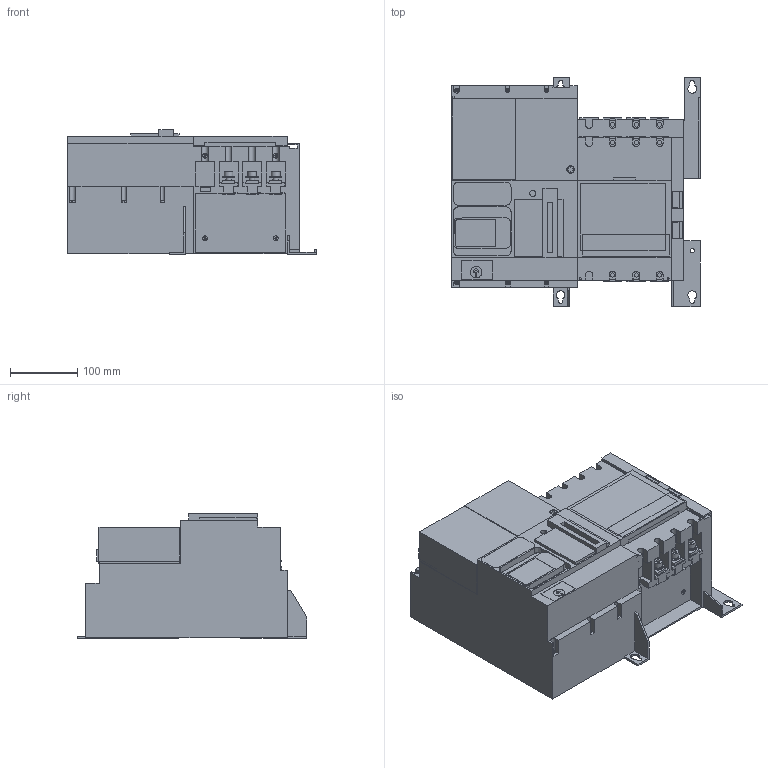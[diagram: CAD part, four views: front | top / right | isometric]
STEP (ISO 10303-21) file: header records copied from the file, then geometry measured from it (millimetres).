
FILE_DESCRIPTION((''),'2;1');
FILE_NAME('R3-3P-LCD-V03-3D_ASM_ASM','2022-11-08T11:42:20',('SESA654545'),('Schneider-Electric'),'CREO PARAMETRIC BY PTC INC, 2021284','CREO PARAMETRIC BY PTC INC, 2021284','');
FILE_SCHEMA(('AP242_MANAGED_MODEL_BASED_3D_ENGINEERING_MIM_LF { 1 0 10303 442 1 1 4 }'));
Products named in the file (4): R3-3P-LCD_1_1; R3-3P-LCD_1_ASM; R3-3P-LCD-V03-3D_ASM_1_ASM; R3-3P-LCD-V03-3D_ASM_ASM
Assembly tree (3 placements, depth 4):
  R3-3P-LCD-V03-3D_ASM_ASM
    R3-3P-LCD-V03-3D_ASM_1_ASM
      R3-3P-LCD_1_ASM
        R3-3P-LCD_1_1
Bounding box: 370 x 341 x 185.8 mm (x, y, z)
Volume: 13935602.2 mm3; surface area: 662033.2 mm2
Topology: 1 solids, 2 shells, 1502 faces, 4199 edges, 2841 vertices
Faces by surface type: plane 1179, cylinder 310, extrusion 13
Entity records: 65120 total; most frequent: CARTESIAN_POINT 9902, ORIENTED_EDGE 8398, DIRECTION 7666, PRESENTATION_STYLE_ASSIGNMENT 4669, STYLED_ITEM 4200, CURVE_STYLE 4199, EDGE_CURVE 4199, VECTOR 3386
